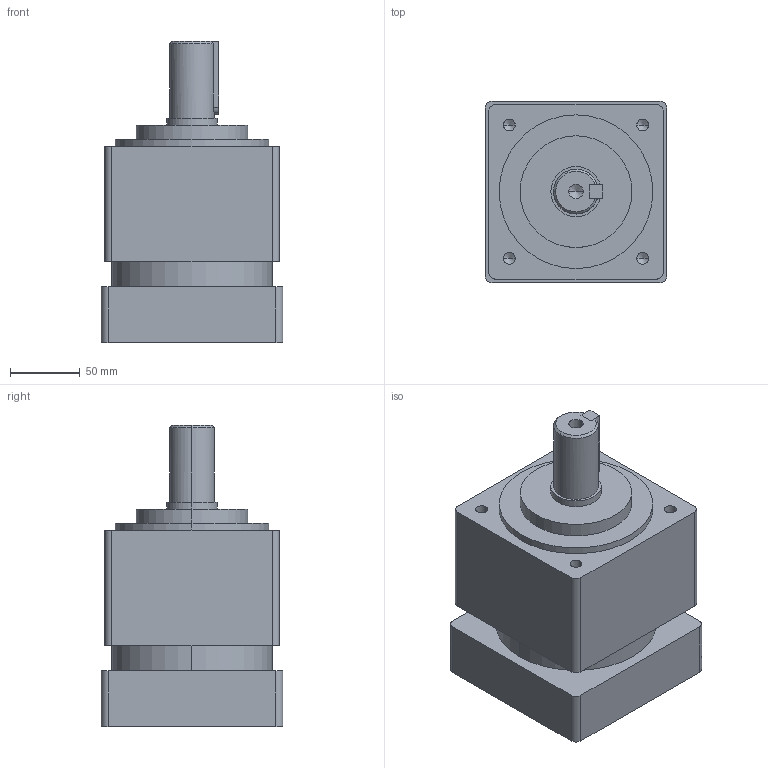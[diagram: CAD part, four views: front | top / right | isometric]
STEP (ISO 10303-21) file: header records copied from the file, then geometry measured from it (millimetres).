
FILE_DESCRIPTION (( 'STEP AP214' ), '1' );
FILE_NAME ('VRSF-125L1.STEP', '2019-09-09T02:41:52', ( '微软用户' ), ( '微软中国' ), 'SwSTEP 2.0', 'SolidWorks 2014', '' );
FILE_SCHEMA (( 'AUTOMOTIVE_DESIGN' ));
Length unit declared in the file: millimetre
Products named in the file (2): VRSF-125L1
Bounding box: 130 x 130 x 215.5 mm (x, y, z)
Volume: 2192034.5 mm3; surface area: 137182.9 mm2
Topology: 2 solids, 4 shells, 721 faces, 2043 edges, 1348 vertices
Faces by surface type: plane 595, bspline 60, cylinder 46, cone 20
Entity records: 30105 total; most frequent: CARTESIAN_POINT 4916, ORIENTED_EDGE 4050, DIRECTION 3324, EDGE_CURVE 2025, LINE 1804, VECTOR 1804, VERTEX_POINT 1348, AXIS2_PLACEMENT_3D 760
